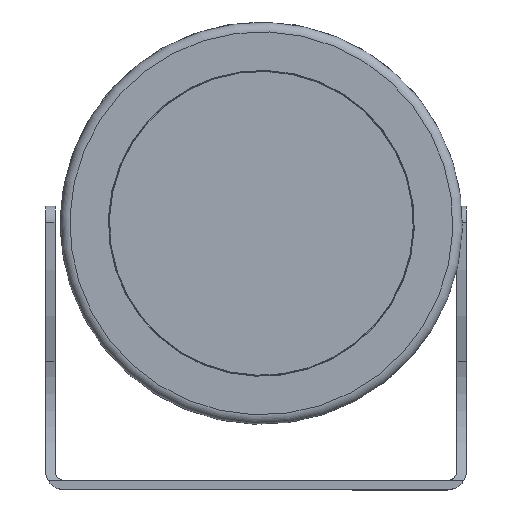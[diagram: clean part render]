
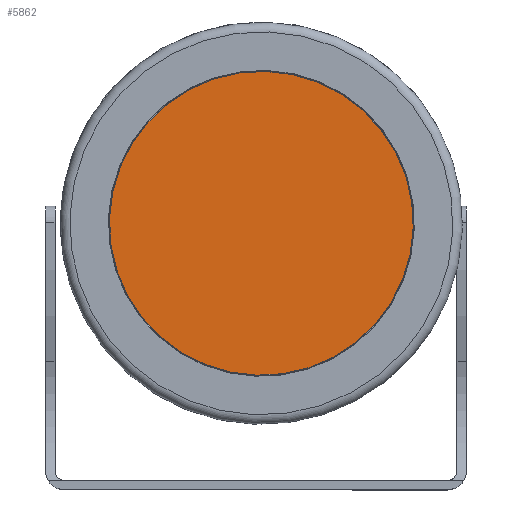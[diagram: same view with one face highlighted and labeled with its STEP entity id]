
A CAD part, top view. The second image highlights one B-rep face of the part: STEP entity #5862.
In plain terms, the highlighted planar face has unit normal (0, 0, 1) as drawn and (0, 1, 0) by its records, which use the part's own axes.
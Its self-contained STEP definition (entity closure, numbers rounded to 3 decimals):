
#1297=CIRCLE('',#6327,64.25);
#1772=VERTEX_POINT('',#9870);
#3088=EDGE_CURVE('',#1772,#1772,#1297,.T.);
#4274=ORIENTED_EDGE('',*,*,#3088,.F.);
#4939=EDGE_LOOP('',(#4274));
#5472=FACE_BOUND('',#4939,.T.);
#5862=ADVANCED_FACE('',(#5472),#10555,.T.);
#6326=AXIS2_PLACEMENT_3D('',#9868,#7426,$);
#6327=AXIS2_PLACEMENT_3D('',#9869,#7427,#7428);
#7426=DIRECTION('',(0.,1.,0.));
#7427=DIRECTION('',(0.,-1.,0.));
#7428=DIRECTION('',(-64.25,0.,0.));
#9868=CARTESIAN_POINT('',(-32.125,15.,0.));
#9869=CARTESIAN_POINT('',(0.,15.,0.));
#9870=CARTESIAN_POINT('',(-64.25,15.,0.));
#10555=PLANE('',#6326);
